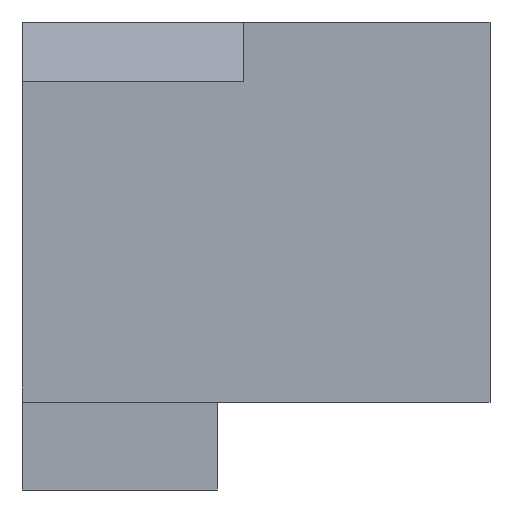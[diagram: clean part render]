
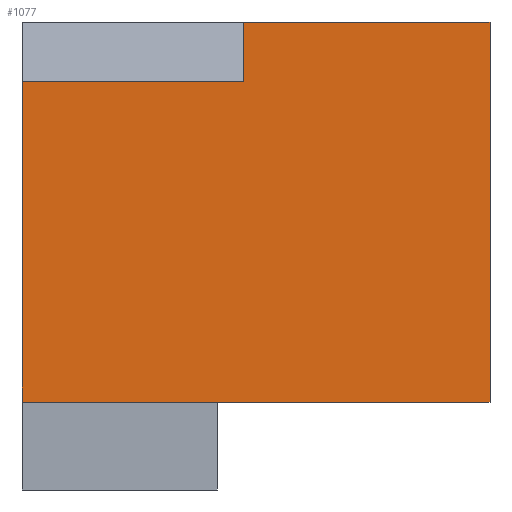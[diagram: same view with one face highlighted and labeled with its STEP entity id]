
A CAD part, front view. The second image highlights one B-rep face of the part: STEP entity #1077.
In plain terms, the highlighted planar face has unit normal (0, -1, 0).
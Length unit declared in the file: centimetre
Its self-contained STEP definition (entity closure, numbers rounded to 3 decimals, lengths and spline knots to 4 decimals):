
#13 = VECTOR ( 'NONE', #973, 100. ) ;
#36 = VERTEX_POINT ( 'NONE', #393 ) ;
#53 = DIRECTION ( 'NONE',  ( 0., 0., 1. ) ) ;
#57 = PLANE ( 'NONE',  #861 ) ;
#62 = CARTESIAN_POINT ( 'NONE',  ( 1000., 0., 1000. ) ) ;
#108 = EDGE_CURVE ( 'NONE', #36, #1099, #150, .T. ) ;
#150 = LINE ( 'NONE', #924, #512 ) ;
#228 = DIRECTION ( 'NONE',  ( 1., 0., 0. ) ) ;
#244 = EDGE_CURVE ( 'NONE', #1099, #1004, #879, .T. ) ;
#245 = ORIENTED_EDGE ( 'NONE', *, *, #360, .T. ) ;
#255 = CARTESIAN_POINT ( 'NONE',  ( 1000., 0., 1000. ) ) ;
#258 = VECTOR ( 'NONE', #1087, 100. ) ;
#271 = DIRECTION ( 'NONE',  ( 0., 0., -1. ) ) ;
#291 = CARTESIAN_POINT ( 'NONE',  ( 688.0894, 0., 187.9366 ) ) ;
#294 = EDGE_LOOP ( 'NONE', ( #571, #673, #742, #867, #366, #245, #729 ) ) ;
#360 = EDGE_CURVE ( 'NONE', #401, #620, #625, .T. ) ;
#366 = ORIENTED_EDGE ( 'NONE', *, *, #734, .T. ) ;
#374 = VECTOR ( 'NONE', #271, 100. ) ;
#393 = CARTESIAN_POINT ( 'NONE',  ( 473.4617, 0., 1000. ) ) ;
#395 = DIRECTION ( 'NONE',  ( 0., 1., 0. ) ) ;
#401 = VERTEX_POINT ( 'NONE', #480 ) ;
#406 = VECTOR ( 'NONE', #53, 100. ) ;
#462 = EDGE_CURVE ( 'NONE', #939, #36, #834, .T. ) ;
#468 = CARTESIAN_POINT ( 'NONE',  ( 417.0058, 0., 187.9366 ) ) ;
#480 = CARTESIAN_POINT ( 'NONE',  ( 0., 0., 873.8269 ) ) ;
#489 = CARTESIAN_POINT ( 'NONE',  ( 1000., 0., 187.9366 ) ) ;
#512 = VECTOR ( 'NONE', #228, 100. ) ;
#525 = VERTEX_POINT ( 'NONE', #468 ) ;
#539 = EDGE_CURVE ( 'NONE', #1004, #525, #731, .T. ) ;
#571 = ORIENTED_EDGE ( 'NONE', *, *, #539, .F. ) ;
#620 = VERTEX_POINT ( 'NONE', #937 ) ;
#625 = LINE ( 'NONE', #786, #374 ) ;
#658 = CARTESIAN_POINT ( 'NONE',  ( 473.4617, 0., 873.8269 ) ) ;
#673 = ORIENTED_EDGE ( 'NONE', *, *, #244, .F. ) ;
#691 = CARTESIAN_POINT ( 'NONE',  ( 473.4617, 0., 873.8269 ) ) ;
#729 = ORIENTED_EDGE ( 'NONE', *, *, #981, .F. ) ;
#731 = LINE ( 'NONE', #291, #258 ) ;
#734 = EDGE_CURVE ( 'NONE', #939, #401, #882, .T. ) ;
#738 = CARTESIAN_POINT ( 'NONE',  ( 473.4617, 0., 873.8269 ) ) ;
#742 = ORIENTED_EDGE ( 'NONE', *, *, #108, .F. ) ;
#786 = CARTESIAN_POINT ( 'NONE',  ( 0., 0., 1000. ) ) ;
#834 = LINE ( 'NONE', #738, #406 ) ;
#839 = FACE_OUTER_BOUND ( 'NONE', #294, .T. ) ;
#844 = DIRECTION ( 'NONE',  ( 0., 0., 1. ) ) ;
#861 = AXIS2_PLACEMENT_3D ( 'NONE', #935, #395, #844 ) ;
#862 = VECTOR ( 'NONE', #1139, 100. ) ;
#867 = ORIENTED_EDGE ( 'NONE', *, *, #462, .F. ) ;
#879 = LINE ( 'NONE', #255, #13 ) ;
#882 = LINE ( 'NONE', #691, #862 ) ;
#921 = DIRECTION ( 'NONE',  ( -1., 0., 0. ) ) ;
#924 = CARTESIAN_POINT ( 'NONE',  ( 0., 0., 1000. ) ) ;
#935 = CARTESIAN_POINT ( 'NONE',  ( 0., 0., 1000. ) ) ;
#937 = CARTESIAN_POINT ( 'NONE',  ( 0., 0., 187.9366 ) ) ;
#939 = VERTEX_POINT ( 'NONE', #658 ) ;
#941 = CARTESIAN_POINT ( 'NONE',  ( 688.0894, 0., 187.9366 ) ) ;
#973 = DIRECTION ( 'NONE',  ( 0., 0., -1. ) ) ;
#981 = EDGE_CURVE ( 'NONE', #525, #620, #1019, .T. ) ;
#1004 = VERTEX_POINT ( 'NONE', #489 ) ;
#1019 = LINE ( 'NONE', #941, #1083 ) ;
#1077 = ADVANCED_FACE ( 'NONE', ( #839 ), #57, .F. ) ;
#1083 = VECTOR ( 'NONE', #921, 100. ) ;
#1087 = DIRECTION ( 'NONE',  ( -1., 0., 0. ) ) ;
#1099 = VERTEX_POINT ( 'NONE', #62 ) ;
#1139 = DIRECTION ( 'NONE',  ( -1., 0., 0. ) ) ;
